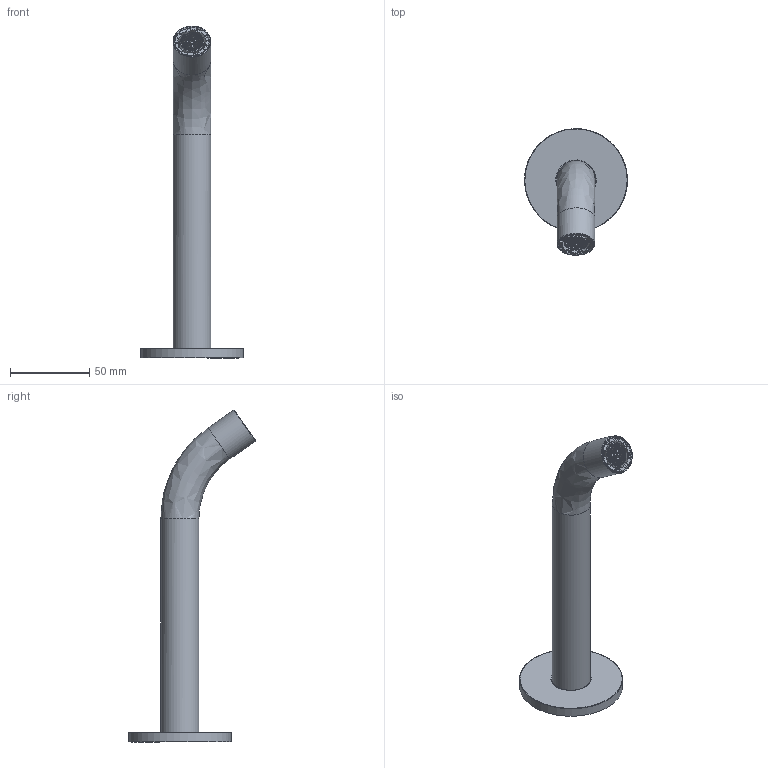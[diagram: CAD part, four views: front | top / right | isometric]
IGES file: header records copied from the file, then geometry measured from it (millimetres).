
Global section: file name: PR52CC201; native system: Autodesk Inventor 2017; preprocessor: unknown; author: PIZZERA; date: 20210409.110111; units: millimetre
Bounding box: 65 x 80.24 x 209.72 mm (x, y, z)
Volume: 114297.6 mm3; surface area: 26746.8 mm2
Topology: 1 solids, 1 shells, 677 faces, 1847 edges, 1234 vertices
Faces by surface type: bspline 677
